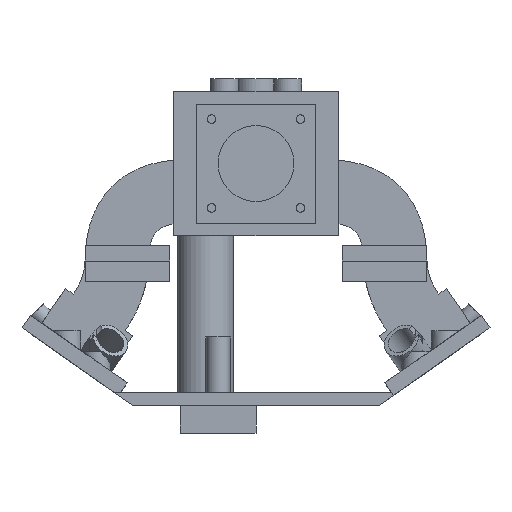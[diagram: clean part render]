
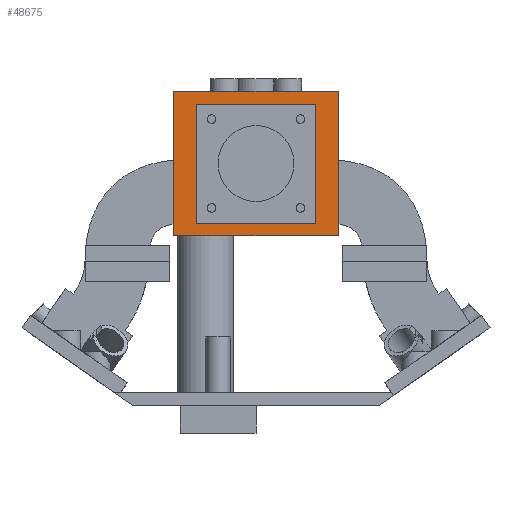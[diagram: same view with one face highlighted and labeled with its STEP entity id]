
A CAD part, left-side view. The second image highlights one B-rep face of the part: STEP entity #48675.
In plain terms, the highlighted planar face has unit normal (-1, 0, 0).
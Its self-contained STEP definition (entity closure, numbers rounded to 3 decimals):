
#48675 = ADVANCED_FACE('',(#48676,#48795),#48690,.F.);
#48676 = FACE_BOUND('',#48677,.F.);
#48677 = EDGE_LOOP('',(#48678,#48713,#48741,#48769));
#48678 = ORIENTED_EDGE('',*,*,#48679,.F.);
#48679 = EDGE_CURVE('',#48680,#48682,#48684,.T.);
#48680 = VERTEX_POINT('',#48681);
#48681 = CARTESIAN_POINT('',(-17.5,-65.,440.));
#48682 = VERTEX_POINT('',#48683);
#48683 = CARTESIAN_POINT('',(-17.5,-65.,553.907));
#48684 = SURFACE_CURVE('',#48685,(#48689,#48701),.PCURVE_S1.);
#48685 = LINE('',#48686,#48687);
#48686 = CARTESIAN_POINT('',(-17.5,-65.,440.));
#48687 = VECTOR('',#48688,1.);
#48688 = DIRECTION('',(0.,0.,1.));
#48689 = PCURVE('',#48690,#48695);
#48690 = PLANE('',#48691);
#48691 = AXIS2_PLACEMENT_3D('',#48692,#48693,#48694);
#48692 = CARTESIAN_POINT('',(-17.5,-65.,440.));
#48693 = DIRECTION('',(1.,0.,-0.));
#48694 = DIRECTION('',(0.,0.,1.));
#48695 = DEFINITIONAL_REPRESENTATION('',(#48696),#48700);
#48696 = LINE('',#48697,#48698);
#48697 = CARTESIAN_POINT('',(0.,0.));
#48698 = VECTOR('',#48699,1.);
#48699 = DIRECTION('',(1.,0.));
#48700 = ( GEOMETRIC_REPRESENTATION_CONTEXT(2) 
PARAMETRIC_REPRESENTATION_CONTEXT() REPRESENTATION_CONTEXT('2D SPACE',''
  ) );
#48701 = PCURVE('',#48702,#48707);
#48702 = PLANE('',#48703);
#48703 = AXIS2_PLACEMENT_3D('',#48704,#48705,#48706);
#48704 = CARTESIAN_POINT('',(-17.5,-65.,440.));
#48705 = DIRECTION('',(-0.,1.,0.));
#48706 = DIRECTION('',(0.,0.,1.));
#48707 = DEFINITIONAL_REPRESENTATION('',(#48708),#48712);
#48708 = LINE('',#48709,#48710);
#48709 = CARTESIAN_POINT('',(0.,0.));
#48710 = VECTOR('',#48711,1.);
#48711 = DIRECTION('',(1.,0.));
#48712 = ( GEOMETRIC_REPRESENTATION_CONTEXT(2) 
PARAMETRIC_REPRESENTATION_CONTEXT() REPRESENTATION_CONTEXT('2D SPACE',''
  ) );
#48713 = ORIENTED_EDGE('',*,*,#48714,.T.);
#48714 = EDGE_CURVE('',#48680,#48715,#48717,.T.);
#48715 = VERTEX_POINT('',#48716);
#48716 = CARTESIAN_POINT('',(-17.5,65.,440.));
#48717 = SURFACE_CURVE('',#48718,(#48722,#48729),.PCURVE_S1.);
#48718 = LINE('',#48719,#48720);
#48719 = CARTESIAN_POINT('',(-17.5,-65.,440.));
#48720 = VECTOR('',#48721,1.);
#48721 = DIRECTION('',(-0.,1.,0.));
#48722 = PCURVE('',#48690,#48723);
#48723 = DEFINITIONAL_REPRESENTATION('',(#48724),#48728);
#48724 = LINE('',#48725,#48726);
#48725 = CARTESIAN_POINT('',(0.,0.));
#48726 = VECTOR('',#48727,1.);
#48727 = DIRECTION('',(0.,-1.));
#48728 = ( GEOMETRIC_REPRESENTATION_CONTEXT(2) 
PARAMETRIC_REPRESENTATION_CONTEXT() REPRESENTATION_CONTEXT('2D SPACE',''
  ) );
#48729 = PCURVE('',#48730,#48735);
#48730 = PLANE('',#48731);
#48731 = AXIS2_PLACEMENT_3D('',#48732,#48733,#48734);
#48732 = CARTESIAN_POINT('',(-17.5,-65.,440.));
#48733 = DIRECTION('',(0.,0.,1.));
#48734 = DIRECTION('',(1.,0.,-0.));
#48735 = DEFINITIONAL_REPRESENTATION('',(#48736),#48740);
#48736 = LINE('',#48737,#48738);
#48737 = CARTESIAN_POINT('',(0.,0.));
#48738 = VECTOR('',#48739,1.);
#48739 = DIRECTION('',(0.,1.));
#48740 = ( GEOMETRIC_REPRESENTATION_CONTEXT(2) 
PARAMETRIC_REPRESENTATION_CONTEXT() REPRESENTATION_CONTEXT('2D SPACE',''
  ) );
#48741 = ORIENTED_EDGE('',*,*,#48742,.T.);
#48742 = EDGE_CURVE('',#48715,#48743,#48745,.T.);
#48743 = VERTEX_POINT('',#48744);
#48744 = CARTESIAN_POINT('',(-17.5,65.,553.907));
#48745 = SURFACE_CURVE('',#48746,(#48750,#48757),.PCURVE_S1.);
#48746 = LINE('',#48747,#48748);
#48747 = CARTESIAN_POINT('',(-17.5,65.,440.));
#48748 = VECTOR('',#48749,1.);
#48749 = DIRECTION('',(0.,0.,1.));
#48750 = PCURVE('',#48690,#48751);
#48751 = DEFINITIONAL_REPRESENTATION('',(#48752),#48756);
#48752 = LINE('',#48753,#48754);
#48753 = CARTESIAN_POINT('',(0.,-130.));
#48754 = VECTOR('',#48755,1.);
#48755 = DIRECTION('',(1.,0.));
#48756 = ( GEOMETRIC_REPRESENTATION_CONTEXT(2) 
PARAMETRIC_REPRESENTATION_CONTEXT() REPRESENTATION_CONTEXT('2D SPACE',''
  ) );
#48757 = PCURVE('',#48758,#48763);
#48758 = PLANE('',#48759);
#48759 = AXIS2_PLACEMENT_3D('',#48760,#48761,#48762);
#48760 = CARTESIAN_POINT('',(-17.5,65.,440.));
#48761 = DIRECTION('',(-0.,1.,0.));
#48762 = DIRECTION('',(0.,0.,1.));
#48763 = DEFINITIONAL_REPRESENTATION('',(#48764),#48768);
#48764 = LINE('',#48765,#48766);
#48765 = CARTESIAN_POINT('',(0.,0.));
#48766 = VECTOR('',#48767,1.);
#48767 = DIRECTION('',(1.,0.));
#48768 = ( GEOMETRIC_REPRESENTATION_CONTEXT(2) 
PARAMETRIC_REPRESENTATION_CONTEXT() REPRESENTATION_CONTEXT('2D SPACE',''
  ) );
#48769 = ORIENTED_EDGE('',*,*,#48770,.F.);
#48770 = EDGE_CURVE('',#48682,#48743,#48771,.T.);
#48771 = SURFACE_CURVE('',#48772,(#48776,#48783),.PCURVE_S1.);
#48772 = LINE('',#48773,#48774);
#48773 = CARTESIAN_POINT('',(-17.5,-65.,553.907));
#48774 = VECTOR('',#48775,1.);
#48775 = DIRECTION('',(-0.,1.,0.));
#48776 = PCURVE('',#48690,#48777);
#48777 = DEFINITIONAL_REPRESENTATION('',(#48778),#48782);
#48778 = LINE('',#48779,#48780);
#48779 = CARTESIAN_POINT('',(113.907,0.));
#48780 = VECTOR('',#48781,1.);
#48781 = DIRECTION('',(0.,-1.));
#48782 = ( GEOMETRIC_REPRESENTATION_CONTEXT(2) 
PARAMETRIC_REPRESENTATION_CONTEXT() REPRESENTATION_CONTEXT('2D SPACE',''
  ) );
#48783 = PCURVE('',#48784,#48789);
#48784 = PLANE('',#48785);
#48785 = AXIS2_PLACEMENT_3D('',#48786,#48787,#48788);
#48786 = CARTESIAN_POINT('',(-17.5,-65.,553.907));
#48787 = DIRECTION('',(0.,0.,1.));
#48788 = DIRECTION('',(1.,0.,-0.));
#48789 = DEFINITIONAL_REPRESENTATION('',(#48790),#48794);
#48790 = LINE('',#48791,#48792);
#48791 = CARTESIAN_POINT('',(0.,0.));
#48792 = VECTOR('',#48793,1.);
#48793 = DIRECTION('',(0.,1.));
#48794 = ( GEOMETRIC_REPRESENTATION_CONTEXT(2) 
PARAMETRIC_REPRESENTATION_CONTEXT() REPRESENTATION_CONTEXT('2D SPACE',''
  ) );
#48795 = FACE_BOUND('',#48796,.F.);
#48796 = EDGE_LOOP('',(#48797,#48827,#48855,#48883));
#48797 = ORIENTED_EDGE('',*,*,#48798,.F.);
#48798 = EDGE_CURVE('',#48799,#48801,#48803,.T.);
#48799 = VERTEX_POINT('',#48800);
#48800 = CARTESIAN_POINT('',(-17.5,-47.,449.953));
#48801 = VERTEX_POINT('',#48802);
#48802 = CARTESIAN_POINT('',(-17.5,47.,449.953));
#48803 = SURFACE_CURVE('',#48804,(#48808,#48815),.PCURVE_S1.);
#48804 = LINE('',#48805,#48806);
#48805 = CARTESIAN_POINT('',(-17.5,-47.,449.953));
#48806 = VECTOR('',#48807,1.);
#48807 = DIRECTION('',(0.,1.,0.));
#48808 = PCURVE('',#48690,#48809);
#48809 = DEFINITIONAL_REPRESENTATION('',(#48810),#48814);
#48810 = LINE('',#48811,#48812);
#48811 = CARTESIAN_POINT('',(9.953,-18.));
#48812 = VECTOR('',#48813,1.);
#48813 = DIRECTION('',(0.,-1.));
#48814 = ( GEOMETRIC_REPRESENTATION_CONTEXT(2) 
PARAMETRIC_REPRESENTATION_CONTEXT() REPRESENTATION_CONTEXT('2D SPACE',''
  ) );
#48815 = PCURVE('',#48816,#48821);
#48816 = PLANE('',#48817);
#48817 = AXIS2_PLACEMENT_3D('',#48818,#48819,#48820);
#48818 = CARTESIAN_POINT('',(-17.5,-47.,449.953));
#48819 = DIRECTION('',(0.,0.,-1.));
#48820 = DIRECTION('',(-1.,0.,0.));
#48821 = DEFINITIONAL_REPRESENTATION('',(#48822),#48826);
#48822 = LINE('',#48823,#48824);
#48823 = CARTESIAN_POINT('',(0.,0.));
#48824 = VECTOR('',#48825,1.);
#48825 = DIRECTION('',(0.,1.));
#48826 = ( GEOMETRIC_REPRESENTATION_CONTEXT(2) 
PARAMETRIC_REPRESENTATION_CONTEXT() REPRESENTATION_CONTEXT('2D SPACE',''
  ) );
#48827 = ORIENTED_EDGE('',*,*,#48828,.F.);
#48828 = EDGE_CURVE('',#48829,#48799,#48831,.T.);
#48829 = VERTEX_POINT('',#48830);
#48830 = CARTESIAN_POINT('',(-17.5,-47.,543.953));
#48831 = SURFACE_CURVE('',#48832,(#48836,#48843),.PCURVE_S1.);
#48832 = LINE('',#48833,#48834);
#48833 = CARTESIAN_POINT('',(-17.5,-47.,543.953));
#48834 = VECTOR('',#48835,1.);
#48835 = DIRECTION('',(0.,0.,-1.));
#48836 = PCURVE('',#48690,#48837);
#48837 = DEFINITIONAL_REPRESENTATION('',(#48838),#48842);
#48838 = LINE('',#48839,#48840);
#48839 = CARTESIAN_POINT('',(103.953,-18.));
#48840 = VECTOR('',#48841,1.);
#48841 = DIRECTION('',(-1.,0.));
#48842 = ( GEOMETRIC_REPRESENTATION_CONTEXT(2) 
PARAMETRIC_REPRESENTATION_CONTEXT() REPRESENTATION_CONTEXT('2D SPACE',''
  ) );
#48843 = PCURVE('',#48844,#48849);
#48844 = PLANE('',#48845);
#48845 = AXIS2_PLACEMENT_3D('',#48846,#48847,#48848);
#48846 = CARTESIAN_POINT('',(-17.5,-47.,543.953));
#48847 = DIRECTION('',(0.,1.,0.));
#48848 = DIRECTION('',(-1.,0.,0.));
#48849 = DEFINITIONAL_REPRESENTATION('',(#48850),#48854);
#48850 = LINE('',#48851,#48852);
#48851 = CARTESIAN_POINT('',(0.,0.));
#48852 = VECTOR('',#48853,1.);
#48853 = DIRECTION('',(0.,-1.));
#48854 = ( GEOMETRIC_REPRESENTATION_CONTEXT(2) 
PARAMETRIC_REPRESENTATION_CONTEXT() REPRESENTATION_CONTEXT('2D SPACE',''
  ) );
#48855 = ORIENTED_EDGE('',*,*,#48856,.T.);
#48856 = EDGE_CURVE('',#48829,#48857,#48859,.T.);
#48857 = VERTEX_POINT('',#48858);
#48858 = CARTESIAN_POINT('',(-17.5,47.,543.953));
#48859 = SURFACE_CURVE('',#48860,(#48864,#48871),.PCURVE_S1.);
#48860 = LINE('',#48861,#48862);
#48861 = CARTESIAN_POINT('',(-17.5,-47.,543.953));
#48862 = VECTOR('',#48863,1.);
#48863 = DIRECTION('',(0.,1.,0.));
#48864 = PCURVE('',#48690,#48865);
#48865 = DEFINITIONAL_REPRESENTATION('',(#48866),#48870);
#48866 = LINE('',#48867,#48868);
#48867 = CARTESIAN_POINT('',(103.953,-18.));
#48868 = VECTOR('',#48869,1.);
#48869 = DIRECTION('',(0.,-1.));
#48870 = ( GEOMETRIC_REPRESENTATION_CONTEXT(2) 
PARAMETRIC_REPRESENTATION_CONTEXT() REPRESENTATION_CONTEXT('2D SPACE',''
  ) );
#48871 = PCURVE('',#48872,#48877);
#48872 = PLANE('',#48873);
#48873 = AXIS2_PLACEMENT_3D('',#48874,#48875,#48876);
#48874 = CARTESIAN_POINT('',(-17.5,-47.,543.953));
#48875 = DIRECTION('',(0.,0.,-1.));
#48876 = DIRECTION('',(-1.,0.,0.));
#48877 = DEFINITIONAL_REPRESENTATION('',(#48878),#48882);
#48878 = LINE('',#48879,#48880);
#48879 = CARTESIAN_POINT('',(0.,0.));
#48880 = VECTOR('',#48881,1.);
#48881 = DIRECTION('',(0.,1.));
#48882 = ( GEOMETRIC_REPRESENTATION_CONTEXT(2) 
PARAMETRIC_REPRESENTATION_CONTEXT() REPRESENTATION_CONTEXT('2D SPACE',''
  ) );
#48883 = ORIENTED_EDGE('',*,*,#48884,.T.);
#48884 = EDGE_CURVE('',#48857,#48801,#48885,.T.);
#48885 = SURFACE_CURVE('',#48886,(#48890,#48897),.PCURVE_S1.);
#48886 = LINE('',#48887,#48888);
#48887 = CARTESIAN_POINT('',(-17.5,47.,543.953));
#48888 = VECTOR('',#48889,1.);
#48889 = DIRECTION('',(0.,0.,-1.));
#48890 = PCURVE('',#48690,#48891);
#48891 = DEFINITIONAL_REPRESENTATION('',(#48892),#48896);
#48892 = LINE('',#48893,#48894);
#48893 = CARTESIAN_POINT('',(103.953,-112.));
#48894 = VECTOR('',#48895,1.);
#48895 = DIRECTION('',(-1.,0.));
#48896 = ( GEOMETRIC_REPRESENTATION_CONTEXT(2) 
PARAMETRIC_REPRESENTATION_CONTEXT() REPRESENTATION_CONTEXT('2D SPACE',''
  ) );
#48897 = PCURVE('',#48898,#48903);
#48898 = PLANE('',#48899);
#48899 = AXIS2_PLACEMENT_3D('',#48900,#48901,#48902);
#48900 = CARTESIAN_POINT('',(-17.5,47.,543.953));
#48901 = DIRECTION('',(0.,1.,0.));
#48902 = DIRECTION('',(-1.,0.,0.));
#48903 = DEFINITIONAL_REPRESENTATION('',(#48904),#48908);
#48904 = LINE('',#48905,#48906);
#48905 = CARTESIAN_POINT('',(0.,0.));
#48906 = VECTOR('',#48907,1.);
#48907 = DIRECTION('',(0.,-1.));
#48908 = ( GEOMETRIC_REPRESENTATION_CONTEXT(2) 
PARAMETRIC_REPRESENTATION_CONTEXT() REPRESENTATION_CONTEXT('2D SPACE',''
  ) );
